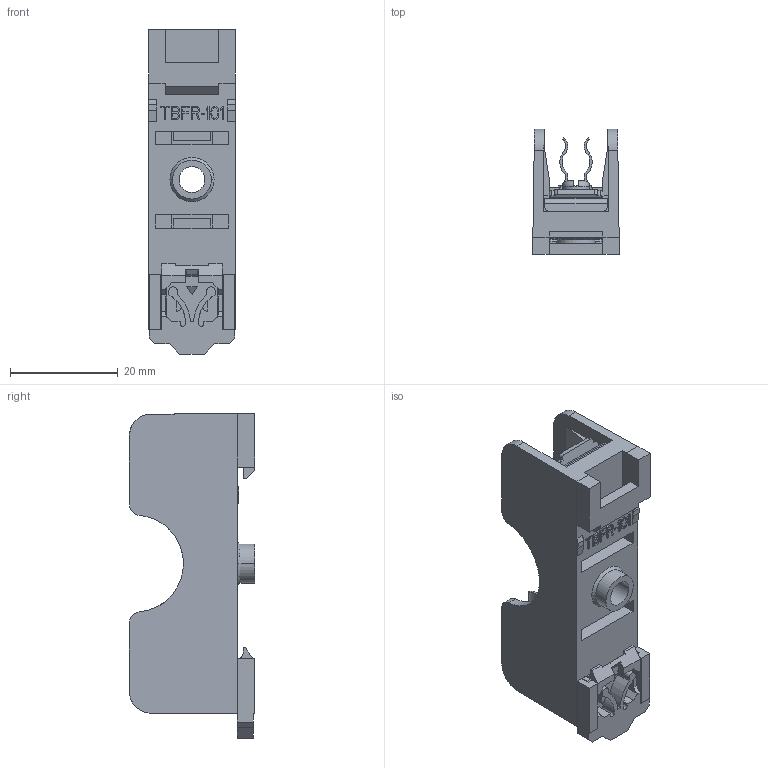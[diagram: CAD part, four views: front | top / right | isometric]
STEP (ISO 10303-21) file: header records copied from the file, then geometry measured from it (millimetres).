
FILE_DESCRIPTION((''),'2;1');
FILE_NAME('ASM0003_ASM','2016-06-16T',('Administrator'),(''),'PRO/ENGINEER BY PARAMETRIC TECHNOLOGY CORPORATION, 2012360','PRO/ENGINEER BY PARAMETRIC TECHNOLOGY CORPORATION, 2012360','');
FILE_SCHEMA(('CONFIG_CONTROL_DESIGN'));
Length unit declared in the file: millimetre
Products named in the file (1): ASM0003_ASM
Bounding box: 16 x 23.2 x 60.2 mm (x, y, z)
Volume: 7556.5 mm3; surface area: 9926.9 mm2
Topology: 1 solids, 4 shells, 941 faces, 2728 edges, 1810 vertices
Faces by surface type: plane 788, cylinder 147, torus 4, cone 2
Entity records: 30922 total; most frequent: CARTESIAN_POINT 5791, ORIENTED_EDGE 5456, DIRECTION 4878, EDGE_CURVE 2728, VECTOR 2348, LINE 2348, VERTEX_POINT 1810, AXIS2_PLACEMENT_3D 1265
